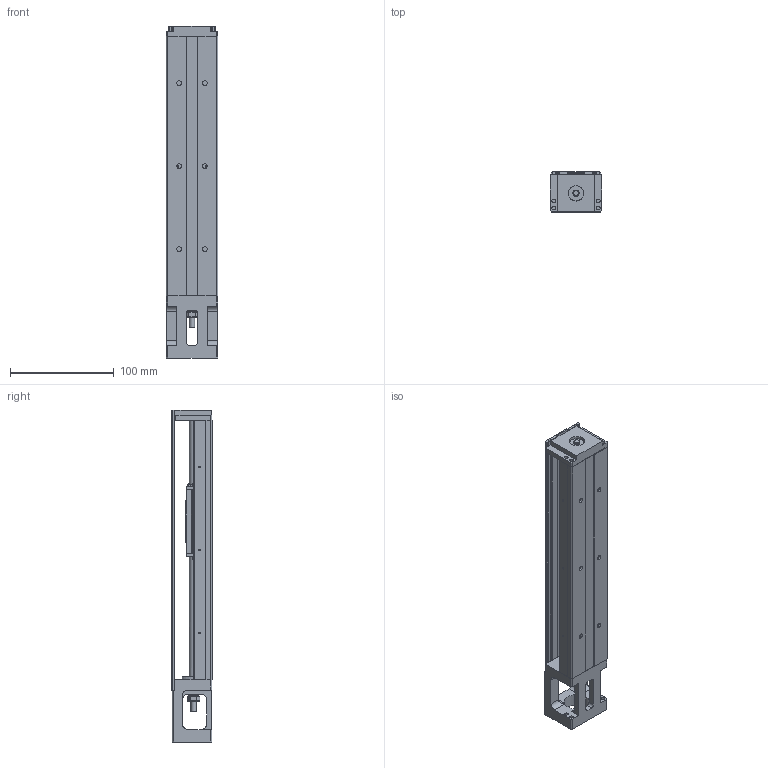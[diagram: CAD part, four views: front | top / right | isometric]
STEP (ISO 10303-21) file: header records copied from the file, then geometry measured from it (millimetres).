
FILE_DESCRIPTION(/* description */ (''),/* implementation_level */ '2;1');
FILE_NAME(/* name */ '26-250C.stp',/* time_stamp */ '2016-12-16T14:56:17+08:00',/* author */ (''),/* organization */ (''),/* preprocessor_version */ 'ST-DEVELOPER v11',/* originating_system */ 'SIEMENS UGS NX 6.0',/* authorisation */ '');
FILE_SCHEMA (('AUTOMOTIVE_DESIGN { 1 0 10303 214 1 1 1 1 }'));
Length unit declared in the file: millimetre
Products named in the file (1): model4
Bounding box: 50 x 39 x 320 mm (x, y, z)
Volume: 257962.1 mm3; surface area: 111929 mm2
Topology: 6 solids, 11 shells, 695 faces, 1814 edges, 1169 vertices
Faces by surface type: plane 355, cylinder 246, cone 63, bspline 20, torus 6, extrusion 4, sphere 1
Full cylindrical faces by diameter (mm): 1.6 x6, 2.42 x6, 2.5 x5, 2.8 x6, 3.2 x4, 3.3 x6, 3.5 x6, 4 x4, 4.5 x6, 5 x7, 5.7 x1, 6 x9, 8 x31, 9 x2, 10 x1, 15 x2, 16.9 x1
Entity records: 30522 total; most frequent: CARTESIAN_POINT 11452, DIRECTION 3207, ORIENTED_EDGE 3144, EDGE_CURVE 1572, AXIS2_PLACEMENT_3D 1140, VERTEX_POINT 1093, VECTOR 927, LINE 923
